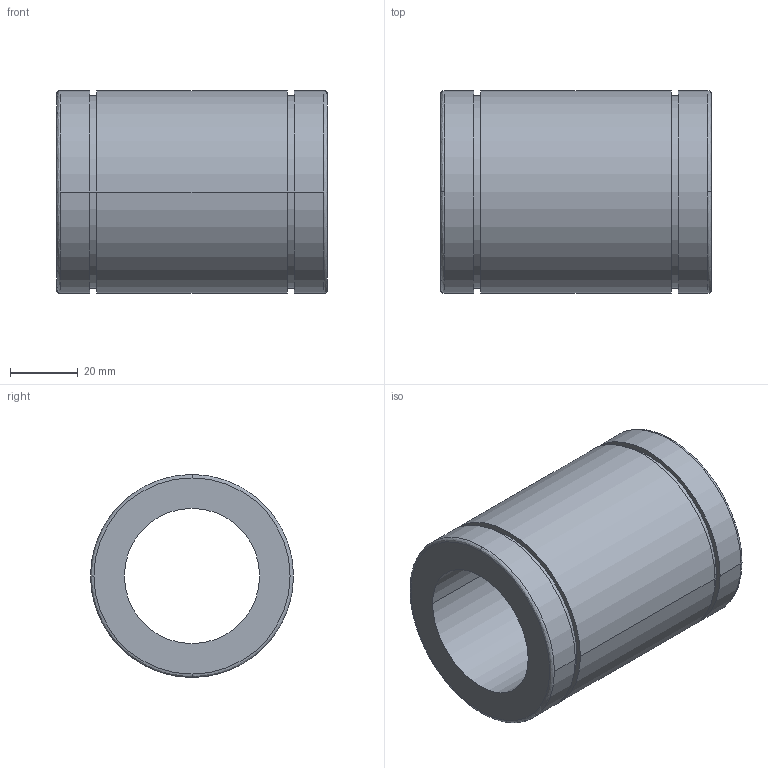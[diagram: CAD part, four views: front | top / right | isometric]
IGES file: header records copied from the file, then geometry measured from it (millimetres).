
Start section: 3D InterOp IGES (Version 21 0 1), Spatial Corp. Copyright (c) 1999-2007.
Global section: file name: N-40UU.igs; native system: Spatial Corp.; preprocessor: 3D InterOp GENERIC/IGES 3.0; author: Noname; organization: Noname; date: 20220311.144837; units: millimetre
Bounding box: 80 x 60 x 60 mm (x, y, z)
Surface area: 29174.8 mm2 (no closed solid volume)
Topology: 0 solids, 0 shells, 22 faces, 100 edges, 100 vertices
Faces by surface type: revolution 16, extrusion 6
